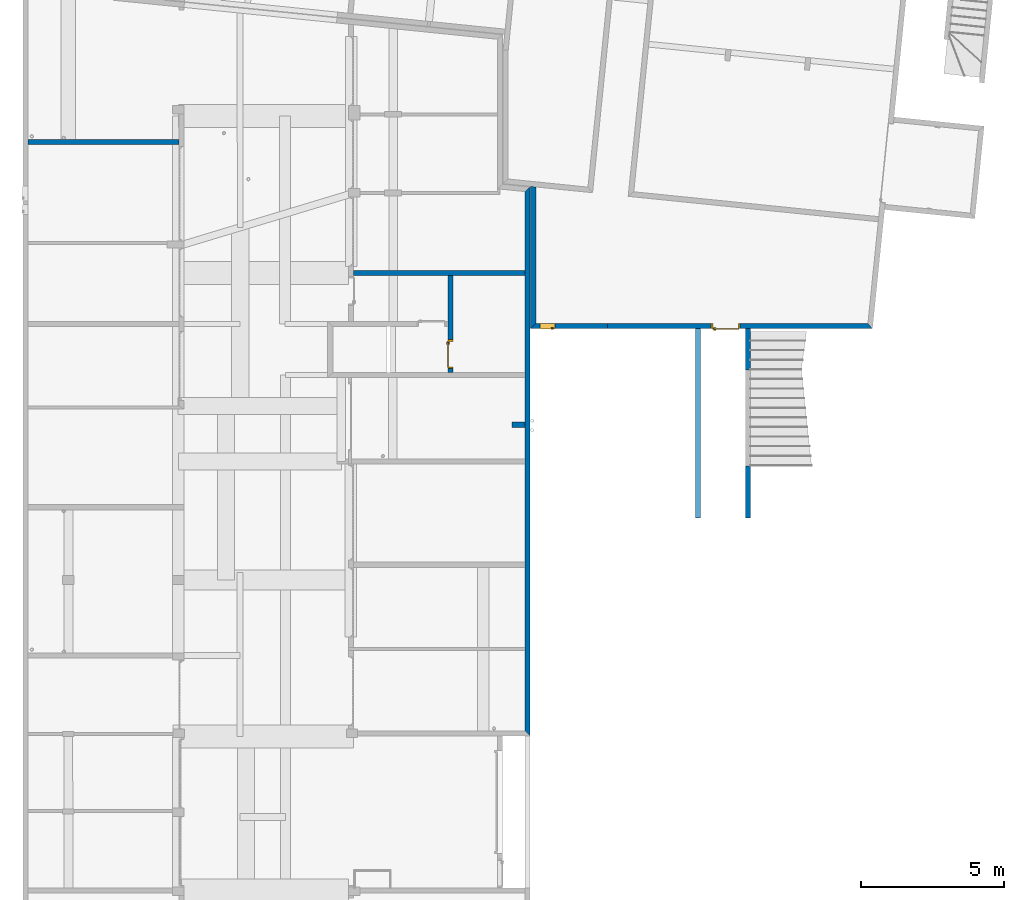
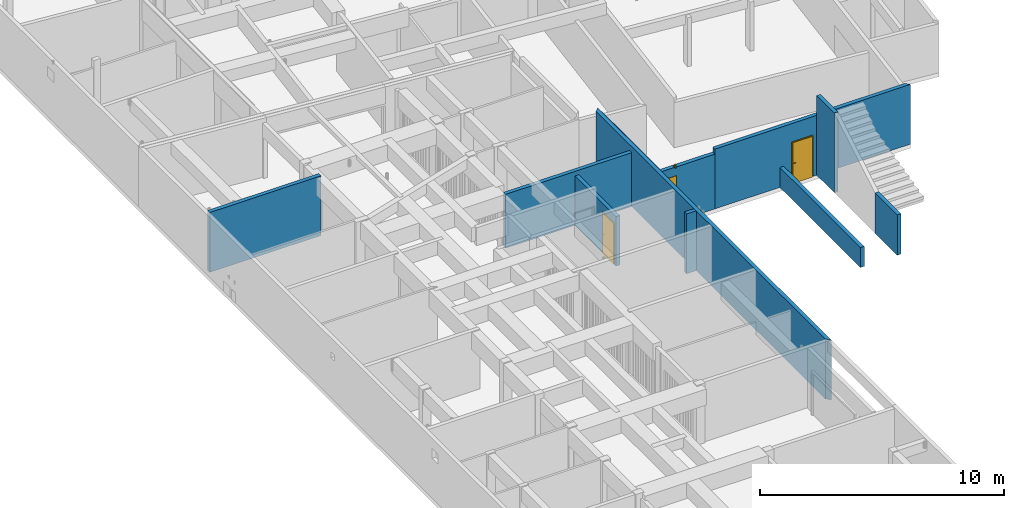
# One storey, part 10 of 41: 11 walls, 3 doors, 3 openings.
"""IFC2X3 building model written with IfcOpenShell, lengths in millimetres."""

from ifc_helpers import new_model, entity, si_unit, converted_unit, derived_unit, money_unit, direction, frame, origin_with_axes, origin_2d_with_axis, place, context, subcontext, project, spatial, polyline, rectangle, outline, extrude, faceted_brep, source, transform, mapped, material, layer, layer_set, layer_usage, type_object, element, fill, save


model = new_model("IFC2X3")

# Units and contexts
model_context = context("Model", 3, precision=0.01, world=origin_with_axes(), true_north=direction((0.0, 1.0)))
body_context = subcontext(model_context, "Body", "Model", "MODEL_VIEW")
ifc_project = project(units=[si_unit("LENGTHUNIT", "METRE", prefix="MILLI"), si_unit("AREAUNIT", "SQUARE_METRE"), si_unit("VOLUMEUNIT", "CUBIC_METRE"), converted_unit("PLANEANGLEUNIT", "DEGREE", entity("IfcPlaneAngleMeasure", 0.0174532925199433), si_unit("PLANEANGLEUNIT", "RADIAN"), dimensions=[0, 0, 0, 0, 0, 0, 0]), money_unit("USD"), converted_unit("TIMEUNIT", "Year", entity("IfcTimeMeasure", 31557600.0), si_unit("TIMEUNIT", "SECOND"), dimensions=[0, 0, 1, 0, 0, 0, 0]), si_unit("MASSUNIT", "GRAM", prefix="KILO"), si_unit("THERMODYNAMICTEMPERATUREUNIT", "DEGREE_CELSIUS"), si_unit("LUMINOUSINTENSITYUNIT", "LUMEN"), si_unit("ENERGYUNIT", "JOULE", prefix="MEGA"), derived_unit("THERMALCONDUCTANCEUNIT", [(si_unit("POWERUNIT", "WATT"), 1), (si_unit("LENGTHUNIT", "METRE"), -1), (si_unit("THERMODYNAMICTEMPERATUREUNIT", "KELVIN"), -1)]), derived_unit("SPECIFICHEATCAPACITYUNIT", [(si_unit("ENERGYUNIT", "JOULE"), 1), (si_unit("MASSUNIT", "GRAM", prefix="KILO"), -1), (si_unit("THERMODYNAMICTEMPERATUREUNIT", "KELVIN"), -1)]), derived_unit("MASSDENSITYUNIT", [(si_unit("MASSUNIT", "GRAM", prefix="KILO"), 1), (si_unit("VOLUMEUNIT", "CUBIC_METRE"), -1)])], contexts=[model_context])

# Site, building, storey
site_placement = place(None, origin_with_axes())
site = spatial("IfcSite", under=ifc_project, at=site_placement, Name="Site", CompositionType="ELEMENT")
building_placement = place(site_placement, origin_with_axes())
building = spatial("IfcBuilding", under=site, at=building_placement, Name="Bâtiment", CompositionType="ELEMENT")
storey_placement = place(building_placement, origin_with_axes())
storey = spatial("IfcBuildingStorey", under=building, at=storey_placement, Name="sousol", CompositionType="ELEMENT", Elevation=0.0)

# Walls
ifc_material_1 = material(Name="Parpaing 314940890")
ifc_layer_1 = layer(ifc_material_1, 180.0, ventilated="UNKNOWN")
ifc_layer_set_1 = layer_set([ifc_layer_1], Name="Beton  18 0170347028")
ifc_layer_usage_1 = layer_usage(ifc_layer_set_1, "AXIS2", "NEGATIVE", 0.0)
wall_type_1 = type_object("IfcWallType", Name="Beton  18 0170347028 180", PredefinedType="NOTDEFINED")
wall_1_placement = place(storey_placement, frame((2216634.23334483, -626071.2141322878, 0.0), z_axis=(0.0, 0.0, 1.0), x_axis=(1.0, 0.0, 0.0)))
element("IfcWallStandardCase", 1, at=wall_1_placement, inside=storey, type_object=wall_type_1, material=ifc_layer_usage_1, Name="Mur-133", context=body_context, shape_type="SweptSolid", body=[
    extrude(outline(polyline([(180.0000000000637, -179.9999999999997), (5449.999999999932, -179.9999999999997), (5449.999999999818, 0.0), (180.0000000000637, 0.0), (180.0000000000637, -179.9999999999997)])), origin_with_axes(), (0.0, 0.0, 1.0), 3000.0),
])
ifc_layer_usage_2 = layer_usage(ifc_layer_set_1, "AXIS2", "POSITIVE", 0.0)
wall_2_placement = place(storey_placement, frame((2228014.233344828, -630830.5392885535, 0.0), z_axis=(0.0, 0.0, 1.0), x_axis=(1.0, 0.0, 0.0)))
element("IfcWallStandardCase", 2, at=wall_2_placement, inside=storey, type_object=wall_type_1, material=ifc_layer_usage_2, Name="Mur-133", context=body_context, shape_type="SweptSolid", body=[
    extrude(outline(polyline([(180.0000000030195, 0.0), (6162.408000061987, 0.0), (6162.408000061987, 179.9999999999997), (180.0000000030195, 179.9999999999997), (180.0000000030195, 0.0)])), origin_with_axes(), (0.0, 0.0, 1.0), 2700.0),
])

# Wall, opening, door
ifc_layer_usage_3 = layer_usage(ifc_layer_set_1, "AXIS2", "POSITIVE", 0.0)
wall_3_placement = place(storey_placement, frame((2231488.855675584, -630830.5392885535, 0.0), z_axis=(0.0, 0.0, 1.0), x_axis=(0.0, -1.0, 0.0)))
wall_3 = element("IfcWallStandardCase", 3, at=wall_3_placement, inside=storey, type_object=wall_type_1, material=ifc_layer_usage_3, Name="Mur-133", context=body_context, shape_type="SweptSolid", body=[
    extrude(outline(polyline([(0.0, 0.0), (3382.975390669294, 0.0), (3382.975390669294, 179.99999999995), (0.0, 179.99999999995), (0.0, 0.0)])), origin_with_axes(), (0.0, 0.0, 1.0), 2479.999999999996),
])
opening_1_placement = place(wall_3_placement, frame((2746.159083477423, -1.13686837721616e-10, 0.0), z_axis=(0.0, 0.0, 1.0), x_axis=(1.0, 0.0, 0.0)))
opening_1 = element("IfcOpeningElement", 4, at=opening_1_placement, cuts=wall_3, Name="Por-300", context=body_context, shape_type="SweptSolid", body=[
    extrude(rectangle(XDim=1010.00001192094, YDim=2080.0, at=origin_2d_with_axis()), frame((5.960473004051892e-06, 179.99999999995, 1040.0), z_axis=(0.0, 1.0, 0.0), x_axis=(1.0, 0.0, 0.0)), (0.0, 0.0, -1.0), 360.0),
])
door_style = type_object("IfcDoorStyle", Name="Porte_1v", ConstructionType="NOTDEFINED", OperationType="NOTDEFINED", ParameterTakesPrecedence=False, Sizeable=False)
shared_shape_1 = source(origin_with_axes(), body_context, "Body", "Brep", [
    faceted_brep([(-505.0, 0.0, 0.0), (-505.0, 0.0, 2080.0), (505.0, 0.0, 2080.0), (505.0, 0.0, 0.0), (465.0, 0.0, 0.0), (464.9999999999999, 0.0, 2040.0), (-464.9999999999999, 0.0, 2040.0), (-465.0, 0.0, 0.0), (-505.0, -180.0, 0.0), (-505.0, -180.0, 2080.0), (505.0, -180.0, 2080.0), (505.0, -180.0, 0.0), (450.0, -180.0, 0.0), (450.0, -15.0, 0.0), (465.0, -15.0, 0.0), (464.9999999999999, -15.0, 2040.0), (-464.9999999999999, -15.0, 2040.0), (-465.0, -15.0, 0.0), (-450.0, -15.0, 0.0), (-450.0, -180.0, 0.0), (-450.0, -180.0, 2025.0), (450.0, -180.0, 2025.0), (450.0, -15.0, 2025.0), (-450.0, -15.0, 2025.0)], [[[0, 1, 2, 3, 4, 5, 6, 7]], [[8, 9, 1, 0]], [[9, 10, 2, 1]], [[10, 11, 3, 2]], [[3, 11, 12, 13, 14, 4]], [[5, 4, 14, 15]], [[6, 5, 15, 16]], [[7, 6, 16, 17]], [[0, 7, 17, 18, 19, 8]], [[19, 20, 21, 12, 11, 10, 9, 8]], [[22, 13, 12, 21]], [[17, 16, 15, 14, 13, 22, 23, 18]], [[18, 23, 20, 19]], [[23, 22, 21, 20]]]),
    faceted_brep([(400.0, -15.0, 900.0), (400.0, -15.0, 1100.0), (440.0, -15.0, 1100.0), (440.0, -15.0, 900.0), (400.0, -25.0, 900.0), (400.0, -25.0, 1100.0), (440.0, -25.0, 1100.0), (440.0, -25.0, 900.0)], [[[0, 1, 2, 3]], [[0, 4, 5, 1]], [[1, 5, 6, 2]], [[2, 6, 7, 3]], [[3, 7, 4, 0]], [[7, 6, 5, 4]]]),
    faceted_brep([(329.9999999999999, -25.0, 1000.0), (329.9999999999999, -25.0, 1020.0), (430.0, -25.0, 1020.0), (430.0, -25.0, 1000.0), (329.9999999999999, -45.0, 1000.0), (329.9999999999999, -45.0, 1020.0), (430.0, -45.0, 1020.0), (430.0, -45.0, 1000.0)], [[[0, 1, 2, 3]], [[0, 4, 5, 1]], [[1, 5, 6, 2]], [[2, 6, 7, 3]], [[3, 7, 4, 0]], [[7, 6, 5, 4]]]),
    faceted_brep([(400.0, 35.0, 900.0), (400.0, 35.0, 1100.0), (440.0, 35.0, 1100.0), (440.0, 35.0, 900.0), (400.0, 25.0, 900.0), (400.0, 25.0, 1100.0), (440.0, 25.0, 1100.0), (440.0, 25.0, 900.0)], [[[0, 1, 2, 3]], [[0, 4, 5, 1]], [[1, 5, 6, 2]], [[2, 6, 7, 3]], [[3, 7, 4, 0]], [[7, 6, 5, 4]]]),
    faceted_brep([(329.9999999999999, 55.00000000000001, 1000.0), (329.9999999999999, 55.00000000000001, 1020.0), (430.0, 55.00000000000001, 1020.0), (430.0, 55.00000000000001, 1000.0), (329.9999999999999, 35.0, 1000.0), (329.9999999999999, 35.0, 1020.0), (430.0, 35.0, 1020.0), (430.0, 35.0, 1000.0)], [[[0, 1, 2, 3]], [[0, 4, 5, 1]], [[1, 5, 6, 2]], [[2, 6, 7, 3]], [[3, 7, 4, 0]], [[7, 6, 5, 4]]]),
    faceted_brep([(465.0, 25.0, 0.0), (465.0, -15.0, 0.0), (-465.0, -15.0, 0.0), (-465.0, 25.0, 0.0), (465.0, 25.0, 2040.0), (465.0, -15.0, 2040.0), (-465.0, -15.0, 2040.0), (-465.0, 25.0, 2040.0)], [[[0, 1, 2, 3]], [[4, 5, 1, 0]], [[1, 5, 6, 2]], [[3, 2, 6, 7]], [[0, 3, 7, 4]], [[7, 6, 5, 4]]]),
])
door_1_placement = place(opening_1_placement, frame((464.9999999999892, -1.13686837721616e-10, 0.0), z_axis=(0.0, 0.0, 1.0), x_axis=(-1.0, 0.0, 0.0)))
door_1 = element("IfcDoor", 5, at=door_1_placement, inside=storey, type_object=door_style, Name="Por-300", OverallHeight=2040.0, OverallWidth=930.0, context=body_context, shape_type="MappedRepresentation", body=[
    mapped(shared_shape_1, transform((465.0000000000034, 0.0, 0.0))),
])
fill(opening_1, door_1)

# Walls
ifc_layer_usage_4 = layer_usage(ifc_layer_set_1, "AXIS2", "NEGATIVE", 0.0)
wall_4_placement = place(storey_placement, frame((2234356.64134489, -627735.5565275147, 0.0), z_axis=(0.0, 0.0, 1.0), x_axis=(0.0, -1.0, 0.0)))
element("IfcWallStandardCase", 6, at=wall_4_placement, inside=storey, type_object=wall_type_1, material=ifc_layer_usage_4, Name="Mur-132", context=body_context, shape_type="SweptSolid", body=[
    extrude(outline(polyline([(162.6347701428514, -179.99999999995), (19003.20518434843, -179.99999999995), (19183.20518434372, 0.0), (0.0, 0.0), (162.6347701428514, -179.99999999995)])), origin_with_axes(), (0.0, 0.0, 1.0), 3000.0),
])
ifc_layer_usage_5 = layer_usage(ifc_layer_set_1, "AXIS2", "NEGATIVE", 0.0)
wall_5_placement = place(storey_placement, frame((2233717.911546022, -635953.3438947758, 0.0), z_axis=(0.0, 0.0, 1.0), x_axis=(1.0, 0.0, 0.0)))
element("IfcWallStandardCase", 7, at=wall_5_placement, inside=storey, type_object=wall_type_1, material=ifc_layer_usage_5, Name="Mur-133", context=body_context, shape_type="SweptSolid", body=[
    extrude(outline(polyline([(0.0, -180.0000000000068), (458.7297988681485, -180.0000000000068), (458.7297988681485, 0.0), (0.0, 0.0), (0.0, -180.0000000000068)])), origin_with_axes(), (0.0, 0.0, 1.0), 3000.0),
])
ifc_layer_usage_6 = layer_usage(ifc_layer_set_1, "AXIS2", "POSITIVE", 0.0)
wall_6_placement = place(storey_placement, frame((2234376.64134489, -627717.4859974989, 0.0), z_axis=(0.0, 0.0, 1.0), x_axis=(0.0, -1.0, 0.0)))
element("IfcWallStandardCase", 8, at=wall_6_placement, inside=storey, type_object=wall_type_1, material=ifc_layer_usage_6, Name="Mur-133", context=body_context, shape_type="SweptSolid", body=[
    extrude(outline(polyline([(0.0, 0.0), (4972.178754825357, 0.0), (4792.178754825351, 179.99999999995), (18.29231084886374, 179.99999999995), (0.0, 0.0)])), origin_with_axes(), (0.0, 0.0, 1.0), 2749.08057622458),
])

# Wall, opening, door
ifc_layer_usage_7 = layer_usage(ifc_layer_set_1, "AXIS2", "POSITIVE", 0.0)
wall_7_placement = place(storey_placement, frame((2237056.640529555, -632689.6647523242, 0.0), z_axis=(0.0, 0.0, 1.0), x_axis=(1.0, 0.0, 0.0)))
wall_7 = element("IfcWallStandardCase", 9, at=wall_7_placement, inside=storey, type_object=wall_type_1, material=ifc_layer_usage_7, Name="Mur-133", context=body_context, shape_type="SweptSolid", body=[
    extrude(outline(polyline([(0.0, 0.0), (9266.116633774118, 0.0), (9103.481863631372, 180.0000000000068), (0.0, 180.0000000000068), (0.0, 0.0)])), origin_with_axes(), (0.0, 0.0, 1.0), 2999.999999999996),
])
opening_2_placement = place(wall_7_placement, frame((4134.952444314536, 0.0, 0.0), z_axis=(0.0, 0.0, 1.0), x_axis=(1.0, 0.0, 0.0)))
opening_2 = element("IfcOpeningElement", 10, at=opening_2_placement, cuts=wall_7, Name="Por-299", context=body_context, shape_type="SweptSolid", body=[
    extrude(rectangle(XDim=1010.00001192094, YDim=2080.0, at=origin_2d_with_axis()), frame((5.960487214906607e-06, 180.0000000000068, 1040.0), z_axis=(0.0, 1.0, 0.0), x_axis=(1.0, 0.0, 0.0)), (0.0, 0.0, -1.0), 360.0),
])
door_2_placement = place(opening_2_placement, frame((465.0000000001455, 0.0, 0.0), z_axis=(0.0, 0.0, 1.0), x_axis=(-1.0, 0.0, 0.0)))
door_2 = element("IfcDoor", 11, at=door_2_placement, inside=storey, type_object=door_style, Name="Por-299", OverallHeight=2040.0, OverallWidth=930.0, context=body_context, shape_type="MappedRepresentation", body=[
    mapped(shared_shape_1, transform((465.0000000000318, 0.0, 0.0))),
])
fill(opening_2, door_2)

# Walls
ifc_layer_usage_8 = layer_usage(ifc_layer_set_1, "AXIS2", "NEGATIVE", 0.0)
wall_8_placement = place(storey_placement, frame((2242056.657570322, -632689.6647523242, 0.0), z_axis=(0.0, 0.0, 1.0), x_axis=(0.0, -1.0, 0.0)))
element("IfcWallStandardCase", 12, at=wall_8_placement, inside=storey, type_object=wall_type_1, material=ifc_layer_usage_8, Name="Mur-133", context=body_context, shape_type="SweptSolid", body=[
    extrude(outline(polyline([(0.0, -179.99999999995), (1450.000000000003, -179.99999999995), (1450.000000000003, 0.0), (0.0, 0.0), (0.0, -179.99999999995)])), origin_with_axes(), (0.0, 0.0, 1.0), 4000.0),
])
ifc_layer_usage_9 = layer_usage(ifc_layer_set_1, "AXIS2", "NEGATIVE", 0.0)
wall_9_placement = place(storey_placement, frame((2242056.657570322, -637489.6647523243, 0.0), z_axis=(0.0, 0.0, 1.0), x_axis=(0.0, -1.0, 0.0)))
element("IfcWallStandardCase", 13, at=wall_9_placement, inside=storey, type_object=wall_type_1, material=ifc_layer_usage_9, Name="Mur-133", context=body_context, shape_type="SweptSolid", body=[
    extrude(outline(polyline([(0.0, -179.99999999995), (1821.251899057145, -179.99999999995), (1821.251899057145, 0.0), (0.0, 0.0), (0.0, -179.99999999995)])), origin_with_axes(), (0.0, 0.0, 1.0), 2026.07132391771),
])

# Wall, opening, door
ifc_layer_usage_10 = layer_usage(ifc_layer_set_1, "AXIS2", "POSITIVE", 0.0)
wall_10_placement = place(storey_placement, frame((2234376.64134489, -632689.6647523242, 0.0), z_axis=(0.0, 0.0, 1.0), x_axis=(1.0, 0.0, 0.0)))
wall_10 = element("IfcWallStandardCase", 14, at=wall_10_placement, inside=storey, type_object=wall_type_1, material=ifc_layer_usage_10, Name="Mur-133", context=body_context, shape_type="SweptSolid", body=[
    extrude(outline(polyline([(0.0, 0.0), (2679.999184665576, 0.0), (2679.999184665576, 180.0000000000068), (179.99999999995, 180.0000000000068), (0.0, 0.0)])), origin_with_axes(), (0.0, 0.0, 1.0), 2749.08057622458),
])
opening_3_placement = place(wall_10_placement, frame((590.4402971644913, 0.0, 1800.000000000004), z_axis=(0.0, 0.0, 1.0), x_axis=(1.0, 0.0, 0.0)))
opening_3 = element("IfcOpeningElement", 15, at=opening_3_placement, cuts=wall_10, Name="Por-276", context=body_context, shape_type="SweptSolid", body=[
    extrude(rectangle(XDim=519.9999999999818, YDim=509.9999988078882, at=origin_2d_with_axis()), frame((0.0, 180.0000000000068, 255.0000005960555), z_axis=(0.0, -1.0, 0.0), x_axis=(-1.0, 0.0, 0.0)), (0.0, 0.0, 1.0), 360.0),
])
shared_shape_2 = source(origin_with_axes(), body_context, "Body", "Brep", [
    faceted_brep([(260.0, 0.0, 0.0), (250.0, 0.0, 0.0), (250.0, 0.0, 500.0), (-250.0, 0.0, 500.0), (-250.0, 0.0, 0.0), (-260.0, 0.0, 0.0), (-260.0, 0.0, 510.0), (260.0, 0.0, 510.0), (260.0, -180.0, 0.0), (240.0, -180.0, 0.0), (240.0, -15.0, 0.0), (250.0, -15.0, 0.0), (250.0, -15.0, 500.0), (-250.0, -15.0, 500.0), (-250.0, -15.0, 0.0), (-240.0, -15.0, 0.0), (-240.0, -180.0, 0.0), (-260.0, -180.0, 0.0), (-260.0, -180.0, 510.0), (260.0, -180.0, 510.0), (-240.0, -180.0, 490.0), (240.0, -180.0, 490.0), (240.0, -15.0, 490.0), (-240.0, -15.0, 490.0)], [[[0, 1, 2, 3, 4, 5, 6, 7]], [[0, 8, 9, 10, 11, 1]], [[1, 11, 12, 2]], [[2, 12, 13, 3]], [[3, 13, 14, 4]], [[5, 4, 14, 15, 16, 17]], [[18, 6, 5, 17]], [[19, 7, 6, 18]], [[8, 0, 7, 19]], [[9, 8, 19, 18, 17, 16, 20, 21]], [[10, 9, 21, 22]], [[11, 10, 22, 23, 15, 14, 13, 12]], [[23, 20, 16, 15]], [[22, 21, 20, 23]]]),
    faceted_brep([(-185.0, -15.0, 900.0), (-225.0, -15.0, 900.0), (-225.0, -15.0, 1100.0), (-185.0, -15.0, 1100.0), (-185.0, -25.0, 900.0), (-225.0, -25.0, 900.0), (-225.0, -25.0, 1100.0), (-185.0, -25.0, 1100.0)], [[[0, 1, 2, 3]], [[1, 0, 4, 5]], [[2, 1, 5, 6]], [[3, 2, 6, 7]], [[0, 3, 7, 4]], [[5, 4, 7, 6]]]),
    faceted_brep([(-115.0, -25.0, 1000.0), (-215.0, -25.0, 1000.0), (-215.0, -25.0, 1020.0), (-115.0, -25.0, 1020.0), (-115.0, -45.0, 1000.0), (-215.0, -45.0, 1000.0), (-215.0, -45.0, 1020.0), (-115.0, -45.0, 1020.0)], [[[0, 1, 2, 3]], [[1, 0, 4, 5]], [[2, 1, 5, 6]], [[3, 2, 6, 7]], [[0, 3, 7, 4]], [[5, 4, 7, 6]]]),
    faceted_brep([(-185.0, 15.0, 900.0), (-225.0, 15.0, 900.0), (-225.0, 15.0, 1100.0), (-185.0, 15.0, 1100.0), (-185.0, 5.000000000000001, 900.0), (-225.0, 5.000000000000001, 900.0), (-225.0, 5.000000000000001, 1100.0), (-185.0, 5.000000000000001, 1100.0)], [[[0, 1, 2, 3]], [[1, 0, 4, 5]], [[2, 1, 5, 6]], [[3, 2, 6, 7]], [[0, 3, 7, 4]], [[5, 4, 7, 6]]]),
    faceted_brep([(-115.0, 35.0, 1000.0), (-215.0, 35.0, 1000.0), (-215.0, 35.0, 1020.0), (-115.0, 35.0, 1020.0), (-115.0, 15.0, 1000.0), (-215.0, 15.0, 1000.0), (-215.0, 15.0, 1020.0), (-115.0, 15.0, 1020.0)], [[[0, 1, 2, 3]], [[1, 0, 4, 5]], [[2, 1, 5, 6]], [[3, 2, 6, 7]], [[0, 3, 7, 4]], [[5, 4, 7, 6]]]),
    faceted_brep([(-250.0, 5.000000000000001, 0.0), (250.0, 5.000000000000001, 0.0), (250.0, -15.0, 0.0), (-250.0, -15.0, 0.0), (-250.0, 5.000000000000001, 500.0), (250.0, 5.000000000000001, 500.0), (250.0, -15.0, 500.0), (-250.0, -15.0, 500.0)], [[[0, 1, 2, 3]], [[0, 4, 5, 1]], [[1, 5, 6, 2]], [[3, 2, 6, 7]], [[4, 0, 3, 7]], [[5, 4, 7, 6]]]),
])
door_3_placement = place(opening_3_placement, frame((249.9999999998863, 0.0, 0.0), z_axis=(0.0, 0.0, 1.0), x_axis=(-1.0, 0.0, 0.0)))
door_3 = element("IfcDoor", 16, at=door_3_placement, inside=storey, type_object=door_style, Name="Por-276", OverallHeight=500.0, OverallWidth=500.0, context=body_context, shape_type="MappedRepresentation", body=[
    mapped(shared_shape_2, transform((250.0, 0.0, 0.0))),
])
fill(opening_3, door_3)

# Wall
ifc_material_2 = material(Name="Empty Fill 292498448")
ifc_layer_2 = layer(ifc_material_2, 180.0, ventilated="UNKNOWN")
ifc_layer_set_2 = layer_set([ifc_layer_2], Name="acrotère 18")
ifc_layer_usage_11 = layer_usage(ifc_layer_set_2, "AXIS2", "NEGATIVE", 0.0)
wall_type_2 = type_object("IfcWallType", Name="acrotère 18 180", PredefinedType="NOTDEFINED")
wall_11_placement = place(storey_placement, frame((2240311.362679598, -632689.6647523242, 0.0), z_axis=(0.0, 0.0, 1.0), x_axis=(1.061393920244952e-08, -1.0, 0.0)))
element("IfcWallStandardCase", 17, at=wall_11_placement, inside=storey, type_object=wall_type_2, material=ifc_layer_usage_11, Name="Mur-133", context=body_context, shape_type="SweptSolid", body=[
    extrude(outline(polyline([(-1.910507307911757e-06, -179.99999999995), (6621.251899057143, -179.99999999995), (6621.251899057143, 0.0), (0.0, 0.0), (-1.910507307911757e-06, -179.99999999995)])), origin_with_axes(), (0.0, 0.0, 1.0), 1000.0),
])

save(model, "model.ifc")
